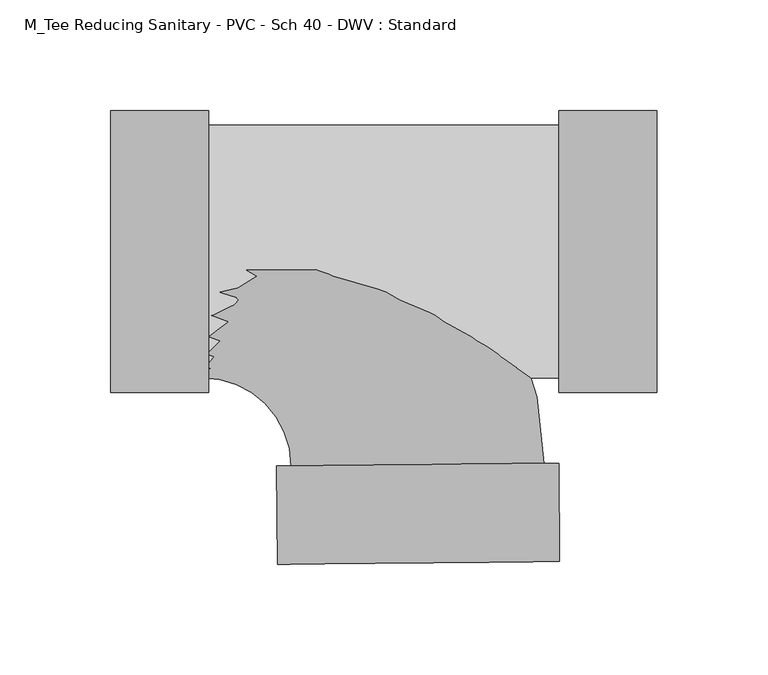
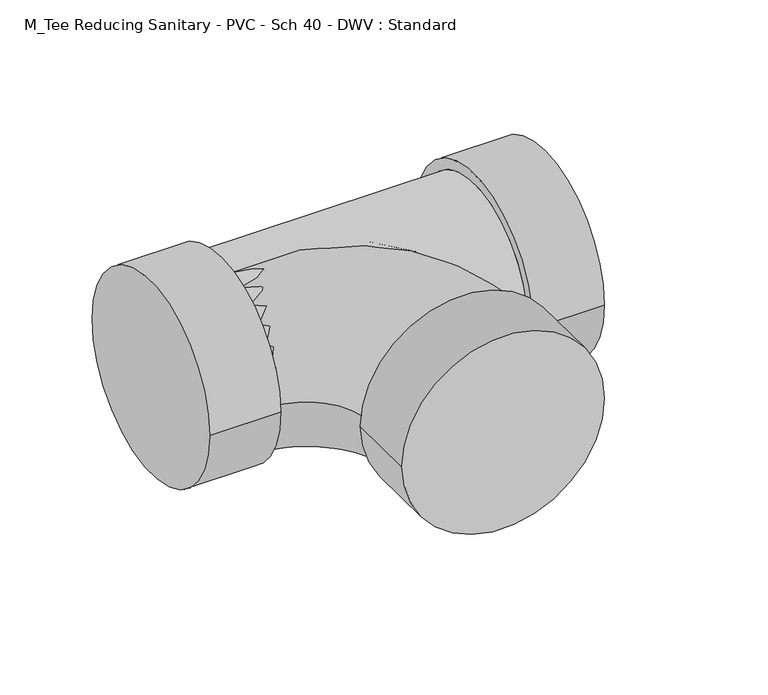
"""IFC4 building model written with IfcOpenShell, lengths in millimetres: pipe fitting geometry, M_Tee Reducing Sanitary - PVC - Sch 40 - DWV : Standard."""

from ifc_helpers import new_model, si_unit, point, frame, origin, place, context, project, spatial, circle_curve, ellipse_curve, trimmed, source, transform, mapped, element, save
from ifc_brep_helpers import plane_surface, cylinder_surface, revolved_surface, advanced_brep


def m_tee_reducing_sanitary_pvc_sch_40_dwv_standard_749dcb00(model_context):
    return source(origin(), model_context, "Body", "AdvancedBrep", [
        advanced_brep(
        [(64.7142409, -63.754, 0.0), (64.7142409, 63.754, 0.0), (64.7142409, -57.15, 0.0), (64.7142409, 57.15, 0.0), (109.1642409, -63.754, 0.0), (109.1642409, 63.754, 0.0), (-93.4599062, 57.15, 0.0), (-93.4599062, -57.15, 0.0), (-137.9099062, -63.754, 0.0), (-137.9099062, 63.754, 0.0), (-93.4599062, -63.754, 0.0), (-93.4599062, 63.754, 0.0)],
        [
            (0, 1, circle_curve(frame((64.7142409, 0.0, 0.0), z_axis=(-1.0, 0.0, 0.0), x_axis=(0.0, 1.0, 0.0)), 63.754)),
            (1, 0, circle_curve(frame((64.7142409, 0.0, 0.0), z_axis=(-1.0, 0.0, 0.0), x_axis=(0.0, 1.0, 0.0)), 63.754)),
            (2, 3, circle_curve(frame((64.7142409, 0.0, 0.0), z_axis=(1.0, 0.0, 0.0), x_axis=(0.0, 0.0, -1.0)), 57.15)),
            (3, 2, circle_curve(frame((64.7142409, 0.0, 0.0), z_axis=(1.0, 0.0, 0.0), x_axis=(0.0, 0.0, 1.0)), 57.15)),
            (4, 5, circle_curve(frame((109.1642409, 0.0, 0.0), z_axis=(1.0, 0.0, 0.0), x_axis=(0.0, 1.0, 0.0)), 63.754)),
            (5, 4, circle_curve(frame((109.1642409, 0.0, 0.0), z_axis=(1.0, 0.0, 0.0), x_axis=(0.0, 1.0, 0.0)), 63.754)),
            (0, 4),
            (5, 1),
            (6, 3),
            (2, 7),
            (7, 6, circle_curve(frame((-93.4599062, 0.0, 0.0), z_axis=(1.0, 0.0, 0.0), x_axis=(0.0, 0.0, -1.0)), 57.15)),
            (6, 7, circle_curve(frame((-93.4599062, 0.0, 0.0), z_axis=(1.0, 0.0, 0.0), x_axis=(0.0, 0.0, 1.0)), 57.15)),
            (8, 9, circle_curve(frame((-137.9099062, 0.0, 0.0), z_axis=(-1.0, 0.0, 0.0), x_axis=(0.0, 1.0, 0.0)), 63.754)),
            (9, 8, circle_curve(frame((-137.9099062, 0.0, 0.0), z_axis=(-1.0, 0.0, 0.0), x_axis=(0.0, 1.0, 0.0)), 63.754)),
            (10, 11, circle_curve(frame((-93.4599062, 0.0, 0.0), z_axis=(1.0, 0.0, 0.0), x_axis=(0.0, 1.0, 0.0)), 63.754)),
            (11, 10, circle_curve(frame((-93.4599062, 0.0, 0.0), z_axis=(1.0, 0.0, 0.0), x_axis=(0.0, 1.0, 0.0)), 63.754)),
            (8, 10),
            (11, 9),
        ],
        [
            plane_surface(frame((64.7142409, 0.0, 0.0), z_axis=(-1.0, 0.0, 0.0), x_axis=(0.0, 0.0, 1.0))),
            plane_surface(frame((109.1642409, 0.0, 0.0), z_axis=(1.0, 0.0, 0.0), x_axis=(0.0, 0.0, 1.0))),
            cylinder_surface(frame((64.7142409, 0.0, 0.0), z_axis=(-1.0, 0.0, 0.0), x_axis=(0.0, 1.0, 0.0)), 63.754),
            cylinder_surface(frame((-93.4599062, 0.0, 0.0), z_axis=(1.0, 0.0, 0.0), x_axis=(0.0, 0.0, -1.0)), 57.15),
            cylinder_surface(frame((-93.4599062, 0.0, 0.0), z_axis=(1.0, 0.0, 0.0), x_axis=(0.0, 0.0, 1.0)), 57.15),
            plane_surface(frame((-137.9099062, 0.0, 0.0), z_axis=(-1.0, 0.0, 0.0), x_axis=(0.0, 0.0, 1.0))),
            plane_surface(frame((-93.4599062, 0.0, 0.0), z_axis=(1.0, 0.0, 0.0), x_axis=(0.0, 0.0, 1.0))),
            cylinder_surface(frame((-137.9099062, 0.0, 0.0), z_axis=(-1.0, 0.0, 0.0), x_axis=(0.0, 1.0, 0.0)), 63.754),
        ],
        [
            (0, [[1, 2], [3, 4]]),
            (1, [[5, 6]]),
            (2, [[-1, 7, -6, 8]]),
            (2, [[-2, -8, -5, -7]]),
            (3, [[9, -3, 10, 11]]),
            (4, [[-9, 12, -10, -4]]),
            (5, [[13, 14]]),
            (6, [[15, 16], [-11, -12]]),
            (7, [[-13, 17, -16, 18]]),
            (7, [[-14, -18, -15, -17]]),
        ],
    ),
        advanced_brep(
        [(-62.7873841, -96.9803474, 0.0), (64.7142409, -95.7053311, 0.0), (58.1105711, -95.7713678, 0.0), (-56.1837143, -96.9143107, 0.0), (-62.3429064, -141.428125, 0.0), (65.1587187, -140.1531088, 0.0), (-96.3476562, -57.15, 0.0), (-96.3476562, 57.15, 0.0)],
        [
            (0, 1, circle_curve(frame((0.9634284, -96.3428392, 0.0), z_axis=(-0.009999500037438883, 0.9999500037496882, 0.0), x_axis=(0.9999500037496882, 0.009999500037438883, 0.0)), 63.754)),
            (1, 0, circle_curve(frame((0.9634284, -96.3428392, 0.0), z_axis=(-0.009999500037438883, 0.9999500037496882, 0.0), x_axis=(0.9999500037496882, 0.009999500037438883, 0.0)), 63.754)),
            (2, 3, circle_curve(frame((0.9634284, -96.3428392, 0.0), z_axis=(0.009999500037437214, -0.9999500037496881, 0.0), x_axis=(0.9999500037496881, 0.009999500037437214, 0.0)), 57.15)),
            (3, 2, circle_curve(frame((0.9634284, -96.3428392, 0.0), z_axis=(0.009999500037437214, -0.9999500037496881, 0.0), x_axis=(0.9999500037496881, 0.009999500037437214, 0.0)), 57.15)),
            (4, 5, circle_curve(frame((1.4079062, -140.7906169, 0.0), z_axis=(0.009999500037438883, -0.9999500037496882, 0.0), x_axis=(0.9999500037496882, 0.009999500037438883, 0.0)), 63.754)),
            (5, 4, circle_curve(frame((1.4079062, -140.7906169, 0.0), z_axis=(0.009999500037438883, -0.9999500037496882, 0.0), x_axis=(0.9999500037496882, 0.009999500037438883, 0.0)), 63.754)),
            (0, 4),
            (5, 1),
            (6, 7, circle_curve(frame((-96.3476562, 0.0, 0.0), z_axis=(-1.0, 0.0, 0.0), x_axis=(0.0, 1.0, 0.0)), 57.15)),
            (7, 6, circle_curve(frame((-96.3476562, 0.0, 0.0), z_axis=(-1.0, 0.0, 0.0), x_axis=(0.0, 1.0, 0.0)), 57.15)),
            (6, 3, circle_curve(frame((-96.3476562, -97.3159501, 0.0), z_axis=(0.0, 0.0, -1.0), x_axis=(0.0, 1.0, 0.0)), 40.1659501)),
            (2, 7, circle_curve(frame((-96.3476562, -97.3159501, 0.0), z_axis=(0.0, 0.0, 1.0), x_axis=(0.0, 1.0, 0.0)), 154.4659501)),
        ],
        [
            plane_surface(frame((0.9634284, -96.3428392, 0.0), z_axis=(-0.009999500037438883, 0.9999500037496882, 0.0), x_axis=(0.0, 0.0, 1.0))),
            plane_surface(frame((1.4079062, -140.7906169, 0.0), z_axis=(0.009999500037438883, -0.9999500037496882, 0.0), x_axis=(0.0, 0.0, 1.0))),
            cylinder_surface(frame((0.9634284, -96.3428392, 0.0), z_axis=(-0.009999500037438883, 0.9999500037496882, 0.0), x_axis=(0.9999500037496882, 0.009999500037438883, 0.0)), 63.754),
            plane_surface(frame((-96.3476562, 0.0, 0.0), z_axis=(-1.0, 0.0, 0.0), x_axis=(0.0, 0.0, 1.0))),
            revolved_surface(trimmed(ellipse_curve(frame((-96.3476562, 0.0, 0.0), z_axis=(-1.0, 0.0, 0.0), x_axis=(0.0, 1.0, 0.0)), 57.15, 57.15), [point((-96.3476562, -57.15, 0.0))], [point((-96.3476562, 57.15, 0.0))], True, "CARTESIAN"), (-96.3476562, -97.3159501, 0.0), (0.0, 0.0, -1.0)),
            revolved_surface(trimmed(ellipse_curve(frame((-96.3476562, 0.0, 0.0), z_axis=(-1.0, 0.0, 0.0), x_axis=(0.0, 1.0, 0.0)), 57.15, 57.15), [point((-96.3476562, 57.15, 0.0))], [point((-96.3476562, -57.15, 0.0))], True, "CARTESIAN"), (-96.3476562, -97.3159501, 0.0), (0.0, 0.0, -1.0)),
        ],
        [
            (0, [[1, 2], [3, 4]]),
            (1, [[5, 6]]),
            (2, [[-1, 7, -6, 8]]),
            (2, [[-2, -8, -5, -7]]),
            (3, [[9, 10]]),
            (4, [[-9, 11, -3, 12]]),
            (5, [[-10, -12, -4, -11]]),
        ],
    ),
    ])


if __name__ == "__main__":
    model = new_model("IFC4")
    model_context = context("Model", 3, world=origin())
    ifc_project = project(units=[si_unit("LENGTHUNIT", "METRE", prefix="MILLI")], contexts=[model_context])
    site = spatial("IfcSite", under=ifc_project)
    building = spatial("IfcBuilding", under=site)
    placement = place(None, origin())
    m_tee_reducing_sanitary_pvc_sch_40_dwv_standard_shape = m_tee_reducing_sanitary_pvc_sch_40_dwv_standard_749dcb00(model_context)
    element("IfcPipeFitting", 1, ObjectType="M_Tee Reducing Sanitary - PVC - Sch 40 - DWV : Standard", at=placement, inside=building, context=model_context, shape_type="MappedRepresentation", body=[
        mapped(m_tee_reducing_sanitary_pvc_sch_40_dwv_standard_shape, transform((0.0, 0.0, 0.0), x_axis=(1.0, 0.0, 0.0), y_axis=(0.0, 1.0, 0.0), z_axis=(0.0, 0.0, 1.0))),
    ])
    save(model, "model.ifc")
